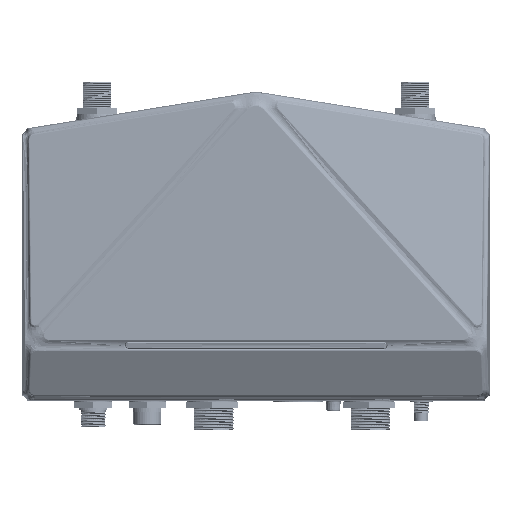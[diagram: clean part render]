
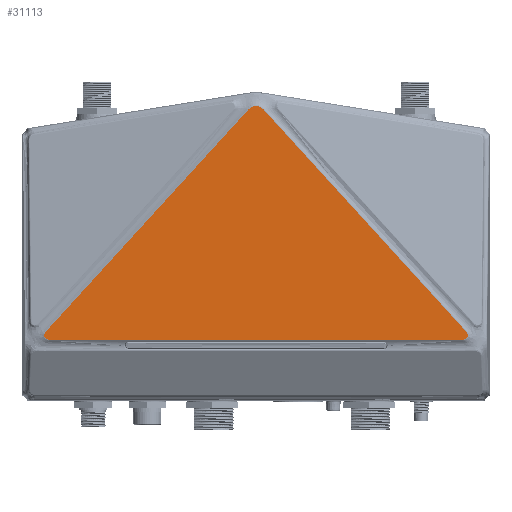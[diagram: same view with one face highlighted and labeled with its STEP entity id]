
A CAD part, front view. The second image highlights one B-rep face of the part: STEP entity #31113.
In plain terms, the highlighted planar face has unit normal (0, -1, 0).
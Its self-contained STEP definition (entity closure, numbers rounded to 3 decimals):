
#7818=CARTESIAN_POINT('',(3.599,-57.845,73.848));
#7819=CARTESIAN_POINT('',(4.103,-57.845,73.308));
#7820=CARTESIAN_POINT('',(4.597,-57.845,72.755));
#7821=CARTESIAN_POINT('',(5.098,-57.845,72.206));
#7826=DIRECTION('',(0.674,0.,-0.739));
#7827=VECTOR('',#7826,141.86);
#7828=CARTESIAN_POINT('',(5.098,-57.845,72.206));
#7829=LINE('',#7828,#7827);
#7833=CARTESIAN_POINT('',(100.709,-57.845,
-32.593));
#7834=CARTESIAN_POINT('',(100.79,-57.845,
-32.683));
#7835=CARTESIAN_POINT('',(100.944,-57.845,
-32.871));
#7836=CARTESIAN_POINT('',(101.132,-57.845,
-33.203));
#7837=CARTESIAN_POINT('',(101.264,-57.845,
-33.563));
#7838=CARTESIAN_POINT('',(101.333,-57.845,
-33.929));
#7839=CARTESIAN_POINT('',(101.344,-57.845,
-34.278));
#7840=CARTESIAN_POINT('',(101.306,-57.845,
-34.593));
#7841=CARTESIAN_POINT('',(101.255,-57.845,
-34.767));
#7842=CARTESIAN_POINT('',(101.225,-57.845,
-34.846));
#7847=CARTESIAN_POINT('',(101.225,-57.845,
-34.846));
#7848=CARTESIAN_POINT('',(101.182,-57.845,
-34.96));
#7849=CARTESIAN_POINT('',(101.079,-57.845,
-35.177));
#7850=CARTESIAN_POINT('',(100.878,-57.845,
-35.48));
#7851=CARTESIAN_POINT('',(100.71,-57.845,
-35.664));
#7852=CARTESIAN_POINT('',(100.617,-57.845,
-35.75));
#7857=CARTESIAN_POINT('',(100.617,-57.845,
-35.75));
#7858=CARTESIAN_POINT('',(100.414,-57.845,
-35.936));
#7859=CARTESIAN_POINT('',(99.937,-57.845,
-36.207));
#7860=CARTESIAN_POINT('',(99.386,-57.845,
-36.273));
#7861=CARTESIAN_POINT('',(99.11,-57.845,
-36.273));
#7866=CARTESIAN_POINT('',(-99.11,-57.845,
-36.273));
#7867=CARTESIAN_POINT('',(-99.386,-57.845,
-36.273));
#7868=CARTESIAN_POINT('',(-99.937,-57.845,
-36.207));
#7869=CARTESIAN_POINT('',(-100.414,-57.845,
-35.936));
#7870=CARTESIAN_POINT('',(-100.617,-57.845,
-35.75));
#7875=CARTESIAN_POINT('',(-100.617,-57.845,
-35.75));
#7876=CARTESIAN_POINT('',(-100.71,-57.845,
-35.664));
#7877=CARTESIAN_POINT('',(-100.878,-57.845,
-35.48));
#7878=CARTESIAN_POINT('',(-101.079,-57.845,
-35.177));
#7879=CARTESIAN_POINT('',(-101.182,-57.845,
-34.959));
#7880=CARTESIAN_POINT('',(-101.225,-57.845,
-34.846));
#7885=CARTESIAN_POINT('',(-101.225,-57.845,
-34.846));
#7886=CARTESIAN_POINT('',(-101.255,-57.845,
-34.767));
#7887=CARTESIAN_POINT('',(-101.306,-57.845,
-34.594));
#7888=CARTESIAN_POINT('',(-101.344,-57.845,
-34.279));
#7889=CARTESIAN_POINT('',(-101.333,-57.845,
-33.93));
#7890=CARTESIAN_POINT('',(-101.264,-57.845,
-33.564));
#7891=CARTESIAN_POINT('',(-101.132,-57.845,
-33.202));
#7892=CARTESIAN_POINT('',(-100.943,-57.845,
-32.869));
#7893=CARTESIAN_POINT('',(-100.79,-57.845,
-32.682));
#7894=CARTESIAN_POINT('',(-100.709,-57.845,
-32.593));
#7899=DIRECTION('',(0.674,0.,0.739));
#7900=VECTOR('',#7899,141.86);
#7901=CARTESIAN_POINT('',(-100.709,-57.845,
-32.593));
#7902=LINE('',#7901,#7900);
#7906=CARTESIAN_POINT('',(-5.098,-57.845,
72.206));
#7907=CARTESIAN_POINT('',(-4.597,-57.845,
72.755));
#7908=CARTESIAN_POINT('',(-4.103,-57.845,
73.308));
#7909=CARTESIAN_POINT('',(-3.599,-57.845,
73.848));
#7914=CARTESIAN_POINT('',(-3.599,-57.845,
73.848));
#7915=CARTESIAN_POINT('',(-3.409,-57.845,
74.051));
#7916=CARTESIAN_POINT('',(-3.203,-57.845,
74.24));
#7917=CARTESIAN_POINT('',(-2.985,-57.845,
74.412));
#7922=CARTESIAN_POINT('',(-2.985,-57.845,
74.412));
#7923=CARTESIAN_POINT('',(-2.561,-57.845,
74.748));
#7924=CARTESIAN_POINT('',(-1.611,-57.845,
75.283));
#7925=CARTESIAN_POINT('',(-0.002,-57.845,
75.575));
#7926=CARTESIAN_POINT('',(1.607,-57.845,75.285));
#7927=CARTESIAN_POINT('',(2.556,-57.845,74.751));
#7928=CARTESIAN_POINT('',(2.979,-57.845,74.417));
#7933=CARTESIAN_POINT('',(2.979,-57.845,74.417));
#7934=CARTESIAN_POINT('',(3.199,-57.845,74.243));
#7935=CARTESIAN_POINT('',(3.407,-57.845,74.053));
#7936=CARTESIAN_POINT('',(3.599,-57.845,73.848));
#8090=DIRECTION('',(1.,0.,0.));
#8091=VECTOR('',#8090,198.219);
#8092=CARTESIAN_POINT('',(-99.11,-57.845,
-36.273));
#8093=LINE('',#8092,#8091);
#17026=VERTEX_POINT('',#7857);
#17027=VERTEX_POINT('',#7861);
#17028=VERTEX_POINT('',#7818);
#17029=VERTEX_POINT('',#7821);
#17030=CARTESIAN_POINT('',(100.709,-57.845,
-32.593));
#17031=VERTEX_POINT('',#17030);
#17032=VERTEX_POINT('',#7842);
#17033=CARTESIAN_POINT('',(-99.11,-57.845,
-36.273));
#17034=VERTEX_POINT('',#17033);
#17035=VERTEX_POINT('',#7870);
#17036=VERTEX_POINT('',#7880);
#17037=VERTEX_POINT('',#7894);
#17038=CARTESIAN_POINT('',(-5.098,-57.845,
72.206));
#17039=VERTEX_POINT('',#17038);
#17040=VERTEX_POINT('',#7909);
#17041=VERTEX_POINT('',#7917);
#17042=VERTEX_POINT('',#7928);
#31079=CARTESIAN_POINT('',(0.,-57.845,
21.399));
#31080=DIRECTION('',(0.,1.,0.));
#31081=DIRECTION('',(1.,0.,0.));
#31082=AXIS2_PLACEMENT_3D('',#31079,#31080,#31081);
#31083=PLANE('',#31082);
#31085=ORIENTED_EDGE('',*,*,#31084,.T.);
#31087=ORIENTED_EDGE('',*,*,#31086,.T.);
#31089=ORIENTED_EDGE('',*,*,#31088,.T.);
#31091=ORIENTED_EDGE('',*,*,#31090,.T.);
#31092=ORIENTED_EDGE('',*,*,#31069,.T.);
#31094=ORIENTED_EDGE('',*,*,#31093,.F.);
#31096=ORIENTED_EDGE('',*,*,#31095,.T.);
#31098=ORIENTED_EDGE('',*,*,#31097,.T.);
#31100=ORIENTED_EDGE('',*,*,#31099,.T.);
#31102=ORIENTED_EDGE('',*,*,#31101,.T.);
#31104=ORIENTED_EDGE('',*,*,#31103,.T.);
#31106=ORIENTED_EDGE('',*,*,#31105,.T.);
#31108=ORIENTED_EDGE('',*,*,#31107,.T.);
#31110=ORIENTED_EDGE('',*,*,#31109,.T.);
#31111=EDGE_LOOP('',(#31085,#31087,#31089,#31091,#31092,#31094,#31096,#31098,
#31100,#31102,#31104,#31106,#31108,#31110));
#31112=FACE_OUTER_BOUND('',#31111,.F.);
#7822=B_SPLINE_CURVE_WITH_KNOTS('',3,(#7818,#7819,#7820,#7821),.UNSPECIFIED.,
.F.,.F.,(4,4),(0.,1.),.UNSPECIFIED.);
#7843=B_SPLINE_CURVE_WITH_KNOTS('',3,(#7833,#7834,#7835,#7836,#7837,#7838,#7839,
#7840,#7841,#7842),.UNSPECIFIED.,.F.,.F.,(4,1,1,1,1,1,1,4),(0.,
0.143,0.286,0.429,0.571,
0.714,0.857,1.),.UNSPECIFIED.);
#7853=B_SPLINE_CURVE_WITH_KNOTS('',3,(#7847,#7848,#7849,#7850,#7851,#7852),
.UNSPECIFIED.,.F.,.F.,(4,1,1,4),(0.,0.333,0.667,1.),
.UNSPECIFIED.);
#7862=B_SPLINE_CURVE_WITH_KNOTS('',3,(#7857,#7858,#7859,#7860,#7861),
.UNSPECIFIED.,.F.,.F.,(4,1,4),(0.,0.5,1.),.UNSPECIFIED.);
#7871=B_SPLINE_CURVE_WITH_KNOTS('',3,(#7866,#7867,#7868,#7869,#7870),
.UNSPECIFIED.,.F.,.F.,(4,1,4),(0.,0.5,1.),.UNSPECIFIED.);
#7881=B_SPLINE_CURVE_WITH_KNOTS('',3,(#7875,#7876,#7877,#7878,#7879,#7880),
.UNSPECIFIED.,.F.,.F.,(4,1,1,4),(0.,0.333,0.667,1.),
.UNSPECIFIED.);
#7895=B_SPLINE_CURVE_WITH_KNOTS('',3,(#7885,#7886,#7887,#7888,#7889,#7890,#7891,
#7892,#7893,#7894),.UNSPECIFIED.,.F.,.F.,(4,1,1,1,1,1,1,4),(0.,
0.143,0.286,0.429,0.571,
0.714,0.857,1.),.UNSPECIFIED.);
#7910=B_SPLINE_CURVE_WITH_KNOTS('',3,(#7906,#7907,#7908,#7909),.UNSPECIFIED.,
.F.,.F.,(4,4),(0.,1.),.UNSPECIFIED.);
#7918=B_SPLINE_CURVE_WITH_KNOTS('',3,(#7914,#7915,#7916,#7917),.UNSPECIFIED.,
.F.,.F.,(4,4),(0.,1.),.UNSPECIFIED.);
#7929=B_SPLINE_CURVE_WITH_KNOTS('',3,(#7922,#7923,#7924,#7925,#7926,#7927,
#7928),.UNSPECIFIED.,.F.,.F.,(4,1,1,1,4),(0.,0.25,0.5,0.75,1.),
.UNSPECIFIED.);
#7937=B_SPLINE_CURVE_WITH_KNOTS('',3,(#7933,#7934,#7935,#7936),.UNSPECIFIED.,
.F.,.F.,(4,4),(0.,1.),.UNSPECIFIED.);
#31069=EDGE_CURVE('',#17026,#17027,#7862,.T.);
#31084=EDGE_CURVE('',#17028,#17029,#7822,.T.);
#31086=EDGE_CURVE('',#17029,#17031,#7829,.T.);
#31088=EDGE_CURVE('',#17031,#17032,#7843,.T.);
#31090=EDGE_CURVE('',#17032,#17026,#7853,.T.);
#31093=EDGE_CURVE('',#17034,#17027,#8093,.T.);
#31095=EDGE_CURVE('',#17034,#17035,#7871,.T.);
#31097=EDGE_CURVE('',#17035,#17036,#7881,.T.);
#31099=EDGE_CURVE('',#17036,#17037,#7895,.T.);
#31101=EDGE_CURVE('',#17037,#17039,#7902,.T.);
#31103=EDGE_CURVE('',#17039,#17040,#7910,.T.);
#31105=EDGE_CURVE('',#17040,#17041,#7918,.T.);
#31107=EDGE_CURVE('',#17041,#17042,#7929,.T.);
#31109=EDGE_CURVE('',#17042,#17028,#7937,.T.);
#31113=ADVANCED_FACE('',(#31112),#31083,.F.);
